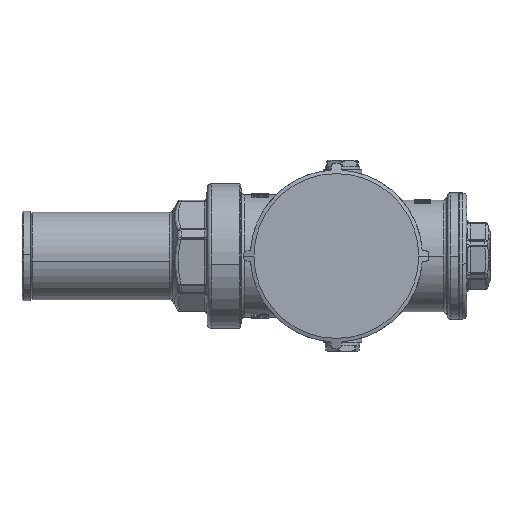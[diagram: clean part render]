
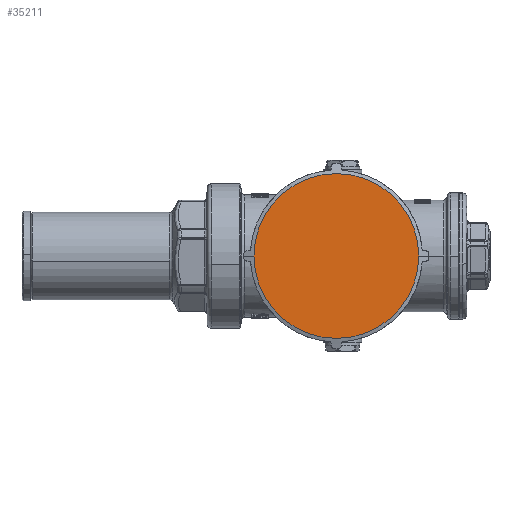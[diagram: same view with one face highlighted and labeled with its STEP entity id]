
A CAD part, left-side view. The second image highlights one B-rep face of the part: STEP entity #35211.
In plain terms, the highlighted planar face has unit normal (-1, 0, 0).
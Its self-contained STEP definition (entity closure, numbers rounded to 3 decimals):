
#490 = VERTEX_POINT ( 'NONE', #23506 ) ;
#1630 = CARTESIAN_POINT ( 'NONE',  ( -65.5, 61.5, 0. ) ) ;
#1957 = ORIENTED_EDGE ( 'NONE', *, *, #14336, .T. ) ;
#5070 = CIRCLE ( 'NONE', #84984, 40.5 ) ;
#5584 = CARTESIAN_POINT ( 'NONE',  ( -65.5, 99.807, 0. ) ) ;
#6734 = AXIS2_PLACEMENT_3D ( 'NONE', #5584, #27501, #60433 ) ;
#11384 = DIRECTION ( 'NONE',  ( -1., 0., 0. ) ) ;
#14336 = EDGE_CURVE ( 'NONE', #490, #60296, #5070, .T. ) ;
#23506 = CARTESIAN_POINT ( 'NONE',  ( -65.5, 102., 0. ) ) ;
#23726 = AXIS2_PLACEMENT_3D ( 'NONE', #71475, #11384, #38153 ) ;
#27501 = DIRECTION ( 'NONE',  ( 1., 0., 0. ) ) ;
#35211 = ADVANCED_FACE ( 'NONE', ( #45518 ), #85483, .F. ) ;
#38153 = DIRECTION ( 'NONE',  ( 0., 1., 0. ) ) ;
#45518 = FACE_OUTER_BOUND ( 'NONE', #48442, .T. ) ;
#46834 = DIRECTION ( 'NONE',  ( 0., 1., 0. ) ) ;
#48442 = EDGE_LOOP ( 'NONE', ( #1957, #63073 ) ) ;
#54294 = DIRECTION ( 'NONE',  ( -1., 0., 0. ) ) ;
#60296 = VERTEX_POINT ( 'NONE', #63727 ) ;
#60433 = DIRECTION ( 'NONE',  ( 0., -1., 0. ) ) ;
#63073 = ORIENTED_EDGE ( 'NONE', *, *, #76859, .T. ) ;
#63727 = CARTESIAN_POINT ( 'NONE',  ( -65.5, 21., 0. ) ) ;
#65759 = CIRCLE ( 'NONE', #23726, 40.5 ) ;
#71475 = CARTESIAN_POINT ( 'NONE',  ( -65.5, 61.5, 0. ) ) ;
#76859 = EDGE_CURVE ( 'NONE', #60296, #490, #65759, .T. ) ;
#84984 = AXIS2_PLACEMENT_3D ( 'NONE', #1630, #54294, #46834 ) ;
#85483 = PLANE ( 'NONE',  #6734 ) ;
